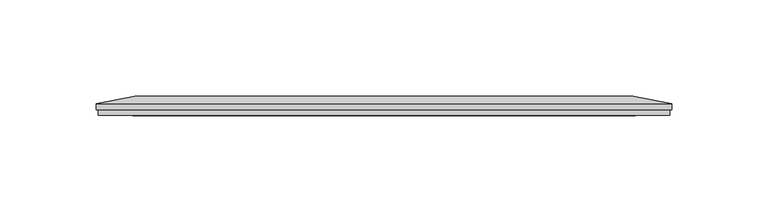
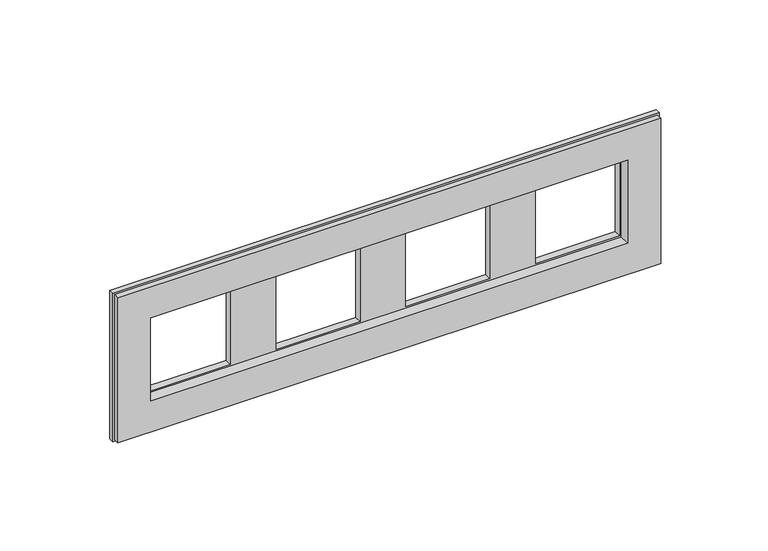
"""IFC4 building model written with IfcOpenShell, lengths in millimetres: proxy geometry, IEK_Skandy_Рамка : x4_SK-F04B."""

from ifc_helpers import new_model, si_unit, origin, place, context, project, spatial, faceted_brep, source, transform, mapped, element, save


def electrical_fixtures_2aa38369(model_context):
    return source(origin(), model_context, "Body", "Brep", [
        faceted_brep([(-255.0, 0.0, 42.0), (-255.0, 0.0, -42.0), (42.0, 0.0, -42.0), (42.0, 0.0, 42.0), (-237.0, 0.0, 24.0), (24.0, 0.0, 24.0), (24.0, 0.0, -24.0), (-237.0, 0.0, -24.0), (-255.0, 3.0, 42.0), (-255.0, 3.0, -42.0), (42.0, 3.0, -42.0), (42.0, 3.0, 42.0), (-237.0, 6.0, 24.0), (24.0, 6.0, 24.0), (24.0, 6.0, -24.0), (-237.0, 6.0, -24.0), (-23.0, 10.0, 23.0), (-23.0, 10.0, -23.0), (-48.0, 10.0, -23.0), (-48.0, 10.0, 23.0), (-119.0, 10.0, -23.0), (-119.0, 10.0, 23.0), (-94.0, 10.0, 23.0), (-94.0, 10.0, -23.0), (-165.0, 10.0, 23.0), (-165.0, 10.0, -23.0), (-190.0, 10.0, -23.0), (-190.0, 10.0, 23.0), (-23.0, 6.0, 23.0), (23.0, 6.0, 23.0), (23.0, 6.0, -23.0), (-23.0, 6.0, -23.0), (-165.0, 6.0, 23.0), (-119.0, 6.0, 23.0), (-119.0, 6.0, -23.0), (-165.0, 6.0, -23.0), (-236.0, 6.0, 23.0), (-190.0, 6.0, 23.0), (-190.0, 6.0, -23.0), (-236.0, 6.0, -23.0), (-94.0, 6.0, 23.0), (-48.0, 6.0, 23.0), (-48.0, 6.0, -23.0), (-94.0, 6.0, -23.0), (43.0, 6.0, 43.0), (23.0, 10.0, 23.0), (-236.0, 10.0, 23.0), (-256.0, 6.0, 43.0), (43.0, 6.0, -43.0), (23.0, 10.0, -23.0), (-256.0, 6.0, -43.0), (-236.0, 10.0, -23.0), (-256.0, 3.0, 43.0), (-256.0, 3.0, -43.0), (43.0, 3.0, -43.0), (43.0, 3.0, 43.0)], [[[0, 1, 2, 3], [4, 5, 6, 7]], [[1, 0, 8, 9]], [[2, 1, 9, 10]], [[3, 2, 10, 11]], [[0, 3, 11, 8]], [[5, 4, 12, 13]], [[6, 5, 13, 14]], [[7, 6, 14, 15]], [[4, 7, 15, 12]], [[16, 17, 18, 19]], [[20, 21, 22, 23]], [[24, 25, 26, 27]], [[13, 12, 15, 14], [28, 29, 30, 31], [32, 33, 34, 35], [36, 37, 38, 39], [40, 41, 42, 43]], [[44, 45, 16, 19, 22, 21, 24, 27, 46, 47]], [[45, 44, 48, 49]], [[49, 48, 50, 51, 26, 25, 20, 23, 18, 17]], [[47, 46, 51, 50]], [[52, 53, 54, 55], [9, 8, 11, 10]], [[53, 52, 47, 50]], [[54, 53, 50, 48]], [[55, 54, 48, 44]], [[52, 55, 44, 47]], [[32, 24, 21, 33]], [[33, 21, 20, 34]], [[34, 20, 25, 35]], [[24, 32, 35, 25]], [[36, 46, 27, 37]], [[37, 27, 26, 38]], [[38, 26, 51, 39]], [[46, 36, 39, 51]], [[28, 16, 45, 29]], [[29, 45, 49, 30]], [[30, 49, 17, 31]], [[16, 28, 31, 17]], [[40, 22, 19, 41]], [[41, 19, 18, 42]], [[42, 18, 23, 43]], [[22, 40, 43, 23]]]),
    ])


if __name__ == "__main__":
    model = new_model("IFC4")
    model_context = context("Model", 3, world=origin())
    ifc_project = project(units=[si_unit("LENGTHUNIT", "METRE", prefix="MILLI")], contexts=[model_context])
    site = spatial("IfcSite", under=ifc_project)
    building = spatial("IfcBuilding", under=site)
    placement = place(None, origin())
    electrical_fixtures_shape = electrical_fixtures_2aa38369(model_context)
    element("IfcBuildingElementProxy", 1, Name="IEK_Skandy_Рамка : x4_SK-F04B", ObjectType="IEK_Skandy_Рамка : x4_SK-F04B", at=placement, inside=building, context=model_context, shape_type="MappedRepresentation", body=[
        mapped(electrical_fixtures_shape, transform((0.0, 0.0, 0.0), x_axis=(1.0, 0.0, 0.0), y_axis=(0.0, 1.0, 0.0), z_axis=(0.0, 0.0, 1.0))),
    ])
    save(model, "model.ifc")
